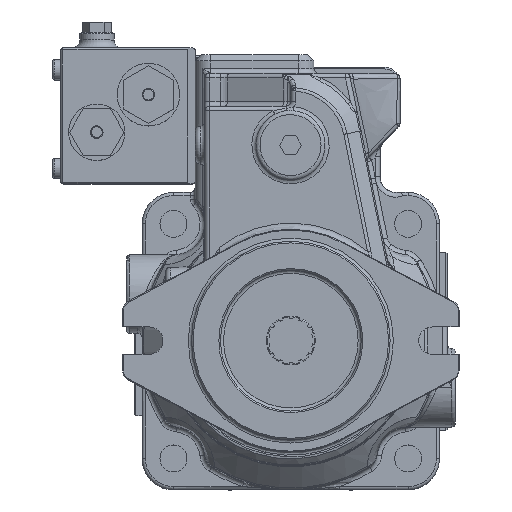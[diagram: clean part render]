
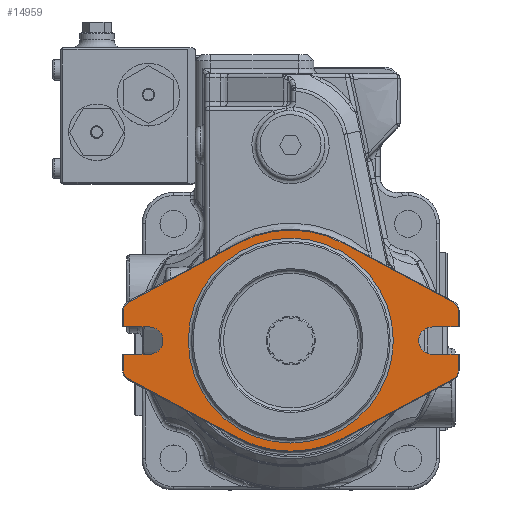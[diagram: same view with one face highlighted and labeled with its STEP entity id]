
A CAD part, top view. The second image highlights one B-rep face of the part: STEP entity #14959.
In plain terms, the highlighted planar face has unit normal (0, 0, 1).
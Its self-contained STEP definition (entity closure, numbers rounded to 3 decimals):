
#10354=CARTESIAN_POINT('',(-90.5,8.75,0.0));
#10355=VERTEX_POINT('',#10354);
#10362=CARTESIAN_POINT('',(-107.0,8.75,0.0));
#10363=VERTEX_POINT('',#10362);
#10364=CARTESIAN_POINT('',(-90.5,8.75,0.0));
#10365=DIRECTION('',(-1.0,0.0,0.0));
#10366=VECTOR('',#10365,16.5);
#10367=LINE('',#10364,#10366);
#10368=EDGE_CURVE('',#10355,#10363,#10367,.T.);
#10738=CARTESIAN_POINT('',(90.5,-8.75,0.0));
#10739=VERTEX_POINT('',#10738);
#10746=CARTESIAN_POINT('',(107.0,-8.75,0.0));
#10747=VERTEX_POINT('',#10746);
#10748=CARTESIAN_POINT('',(90.5,-8.75,0.0));
#10749=DIRECTION('',(1.0,0.0,0.0));
#10750=VECTOR('',#10749,16.5);
#10751=LINE('',#10748,#10750);
#10752=EDGE_CURVE('',#10739,#10747,#10751,.T.);
#10913=CARTESIAN_POINT('',(107.0,8.75,0.0));
#10914=VERTEX_POINT('',#10913);
#10921=CARTESIAN_POINT('',(90.5,8.75,0.0));
#10922=VERTEX_POINT('',#10921);
#10923=CARTESIAN_POINT('',(107.0,8.75,0.0));
#10924=DIRECTION('',(-1.0,0.0,0.0));
#10925=VECTOR('',#10924,16.5);
#10926=LINE('',#10923,#10925);
#10927=EDGE_CURVE('',#10914,#10922,#10926,.T.);
#11048=CARTESIAN_POINT('',(-107.0,-8.75,0.0));
#11049=VERTEX_POINT('',#11048);
#11057=CARTESIAN_POINT('',(-107.0,-19.23,0.0));
#11058=VERTEX_POINT('',#11057);
#11065=CARTESIAN_POINT('',(-107.0,-19.23,0.0));
#11066=DIRECTION('',(0.0,1.0,0.0));
#11067=VECTOR('',#11066,10.48);
#11068=LINE('',#11065,#11067);
#11069=EDGE_CURVE('',#11058,#11049,#11068,.T.);
#11079=CARTESIAN_POINT('',(-103.872,-24.459,0.0));
#11080=VERTEX_POINT('',#11079);
#11087=CARTESIAN_POINT('',(-101.065,-19.23,0.0));
#11088=DIRECTION('',(0.0,0.0,-1.0));
#11089=DIRECTION('',(-0.473,-0.881,0.0));
#11090=AXIS2_PLACEMENT_3D('',#11087,#11088,#11089);
#11091=CIRCLE('',#11090,5.935);
#11092=EDGE_CURVE('',#11080,#11058,#11091,.T.);
#11104=CARTESIAN_POINT('',(-33.433,-62.275,0.0));
#11105=VERTEX_POINT('',#11104);
#11112=CARTESIAN_POINT('',(-33.433,-62.275,0.0));
#11113=DIRECTION('',(-0.881,0.473,0.0));
#11114=VECTOR('',#11113,79.948);
#11115=LINE('',#11112,#11114);
#11116=EDGE_CURVE('',#11105,#11080,#11115,.T.);
#11130=CARTESIAN_POINT('',(33.433,-62.275,0.0));
#11131=VERTEX_POINT('',#11130);
#11138=CARTESIAN_POINT('',(0.0,0.0,0.0));
#11139=DIRECTION('',(0.0,0.0,-1.0));
#11140=DIRECTION('',(0.473,-0.881,0.0));
#11141=AXIS2_PLACEMENT_3D('',#11138,#11139,#11140);
#11142=CIRCLE('',#11141,70.683);
#11143=EDGE_CURVE('',#11131,#11105,#11142,.T.);
#11161=CARTESIAN_POINT('',(103.872,-24.459,0.0));
#11162=VERTEX_POINT('',#11161);
#11169=CARTESIAN_POINT('',(103.872,-24.459,0.0));
#11170=DIRECTION('',(-0.881,-0.473,0.0));
#11171=VECTOR('',#11170,79.948);
#11172=LINE('',#11169,#11171);
#11173=EDGE_CURVE('',#11162,#11131,#11172,.T.);
#11190=CARTESIAN_POINT('',(107.,-19.23,0.0));
#11191=VERTEX_POINT('',#11190);
#11198=CARTESIAN_POINT('',(101.065,-19.23,0.0));
#11199=DIRECTION('',(0.0,0.0,-1.0));
#11200=DIRECTION('',(1.0,0.0,0.0));
#11201=AXIS2_PLACEMENT_3D('',#11198,#11199,#11200);
#11202=CIRCLE('',#11201,5.935);
#11203=EDGE_CURVE('',#11191,#11162,#11202,.T.);
#11216=CARTESIAN_POINT('',(107.0,-8.75,0.0));
#11217=DIRECTION('',(0.0,-1.0,0.0));
#11218=VECTOR('',#11217,10.48);
#11219=LINE('',#11216,#11218);
#11220=EDGE_CURVE('',#10747,#11191,#11219,.T.);
#11252=CARTESIAN_POINT('',(-90.5,-8.75,0.0));
#11253=VERTEX_POINT('',#11252);
#11254=CARTESIAN_POINT('',(-107.0,-8.75,0.0));
#11255=DIRECTION('',(1.0,0.0,0.0));
#11256=VECTOR('',#11255,16.5);
#11257=LINE('',#11254,#11256);
#11258=EDGE_CURVE('',#11049,#11253,#11257,.T.);
#11275=CARTESIAN_POINT('',(-33.433,62.275,0.0));
#11276=VERTEX_POINT('',#11275);
#11283=CARTESIAN_POINT('',(33.433,62.275,0.0));
#11284=VERTEX_POINT('',#11283);
#11285=CARTESIAN_POINT('',(0.0,0.0,0.0));
#11286=DIRECTION('',(0.0,0.0,-1.0));
#11287=DIRECTION('',(-0.473,0.881,0.0));
#11288=AXIS2_PLACEMENT_3D('',#11285,#11286,#11287);
#11289=CIRCLE('',#11288,70.683);
#11290=EDGE_CURVE('',#11276,#11284,#11289,.T.);
#11313=CARTESIAN_POINT('',(-103.872,24.459,0.0));
#11314=VERTEX_POINT('',#11313);
#11321=CARTESIAN_POINT('',(-103.872,24.459,0.0));
#11322=DIRECTION('',(0.881,0.473,0.0));
#11323=VECTOR('',#11322,79.948);
#11324=LINE('',#11321,#11323);
#11325=EDGE_CURVE('',#11314,#11276,#11324,.T.);
#11337=CARTESIAN_POINT('',(103.872,24.459,0.0));
#11338=VERTEX_POINT('',#11337);
#11347=CARTESIAN_POINT('',(33.433,62.275,0.0));
#11348=DIRECTION('',(0.881,-0.473,0.0));
#11349=VECTOR('',#11348,79.948);
#11350=LINE('',#11347,#11349);
#11351=EDGE_CURVE('',#11284,#11338,#11350,.T.);
#11361=CARTESIAN_POINT('',(-107.0,19.23,0.0));
#11362=VERTEX_POINT('',#11361);
#11369=CARTESIAN_POINT('',(-101.065,19.23,0.0));
#11370=DIRECTION('',(0.0,0.0,-1.0));
#11371=DIRECTION('',(-1.0,0.0,0.0));
#11372=AXIS2_PLACEMENT_3D('',#11369,#11370,#11371);
#11373=CIRCLE('',#11372,5.935);
#11374=EDGE_CURVE('',#11362,#11314,#11373,.T.);
#11386=CARTESIAN_POINT('',(107.0,19.23,0.0));
#11387=VERTEX_POINT('',#11386);
#11396=CARTESIAN_POINT('',(101.065,19.23,0.0));
#11397=DIRECTION('',(0.0,0.0,-1.0));
#11398=DIRECTION('',(0.473,0.881,0.0));
#11399=AXIS2_PLACEMENT_3D('',#11396,#11397,#11398);
#11400=CIRCLE('',#11399,5.935);
#11401=EDGE_CURVE('',#11338,#11387,#11400,.T.);
#11412=CARTESIAN_POINT('',(-107.0,8.75,0.0));
#11413=DIRECTION('',(0.0,1.0,0.0));
#11414=VECTOR('',#11413,10.48);
#11415=LINE('',#11412,#11414);
#11416=EDGE_CURVE('',#10363,#11362,#11415,.T.);
#11431=CARTESIAN_POINT('',(107.,19.23,0.0));
#11432=DIRECTION('',(0.0,-1.0,0.0));
#11433=VECTOR('',#11432,10.48);
#11434=LINE('',#11431,#11433);
#11435=EDGE_CURVE('',#11387,#10914,#11434,.T.);
#14905=CARTESIAN_POINT('',(65.487,0.,0.0));
#14906=VERTEX_POINT('',#14905);
#14907=CARTESIAN_POINT('',(0.0,0.0,0.0));
#14908=DIRECTION('',(0.0,0.0,1.0));
#14909=DIRECTION('',(-1.0,0.0,0.0));
#14910=AXIS2_PLACEMENT_3D('',#14907,#14908,#14909);
#14911=CIRCLE('',#14910,65.487);
#14912=EDGE_CURVE('',#14906,#14906,#14911,.T.);
#14917=CARTESIAN_POINT('',(0.,0.,0.0));
#14918=DIRECTION('',(0.0,0.0,1.0));
#14919=DIRECTION('',(1.0,0.0,0.0));
#14920=AXIS2_PLACEMENT_3D('',#14917,#14918,#14919);
#14921=PLANE('',#14920);
#14922=ORIENTED_EDGE('',*,*,#11220,.F.);
#14923=ORIENTED_EDGE('',*,*,#10752,.F.);
#14924=CARTESIAN_POINT('',(90.5,0.0,0.0));
#14925=DIRECTION('',(0.0,0.0,1.0));
#14926=DIRECTION('',(0.0,1.0,0.0));
#14927=AXIS2_PLACEMENT_3D('',#14924,#14925,#14926);
#14928=CIRCLE('',#14927,8.75);
#14929=EDGE_CURVE('',#10922,#10739,#14928,.T.);
#14930=ORIENTED_EDGE('',*,*,#14929,.F.);
#14931=ORIENTED_EDGE('',*,*,#10927,.F.);
#14932=ORIENTED_EDGE('',*,*,#11435,.F.);
#14933=ORIENTED_EDGE('',*,*,#11401,.F.);
#14934=ORIENTED_EDGE('',*,*,#11351,.F.);
#14935=ORIENTED_EDGE('',*,*,#11290,.F.);
#14936=ORIENTED_EDGE('',*,*,#11325,.F.);
#14937=ORIENTED_EDGE('',*,*,#11374,.F.);
#14938=ORIENTED_EDGE('',*,*,#11416,.F.);
#14939=ORIENTED_EDGE('',*,*,#10368,.F.);
#14940=CARTESIAN_POINT('',(-90.5,0.0,0.0));
#14941=DIRECTION('',(0.0,0.0,1.0));
#14942=DIRECTION('',(0.0,-1.0,0.0));
#14943=AXIS2_PLACEMENT_3D('',#14940,#14941,#14942);
#14944=CIRCLE('',#14943,8.75);
#14945=EDGE_CURVE('',#11253,#10355,#14944,.T.);
#14946=ORIENTED_EDGE('',*,*,#14945,.F.);
#14947=ORIENTED_EDGE('',*,*,#11258,.F.);
#14948=ORIENTED_EDGE('',*,*,#11069,.F.);
#14949=ORIENTED_EDGE('',*,*,#11092,.F.);
#14950=ORIENTED_EDGE('',*,*,#11116,.F.);
#14951=ORIENTED_EDGE('',*,*,#11143,.F.);
#14952=ORIENTED_EDGE('',*,*,#11173,.F.);
#14953=ORIENTED_EDGE('',*,*,#11203,.F.);
#14954=EDGE_LOOP('',(#14922,#14923,#14930,#14931,#14932,#14933,#14934,#14935,#14936,#14937,#14938,#14939,#14946,#14947,#14948,#14949,#14950,#14951,#14952,#14953));
#14955=FACE_OUTER_BOUND('',#14954,.T.);
#14956=ORIENTED_EDGE('',*,*,#14912,.F.);
#14957=EDGE_LOOP('',(#14956));
#14958=FACE_BOUND('',#14957,.T.);
#14959=ADVANCED_FACE('',(#14955,#14958),#14921,.T.);
